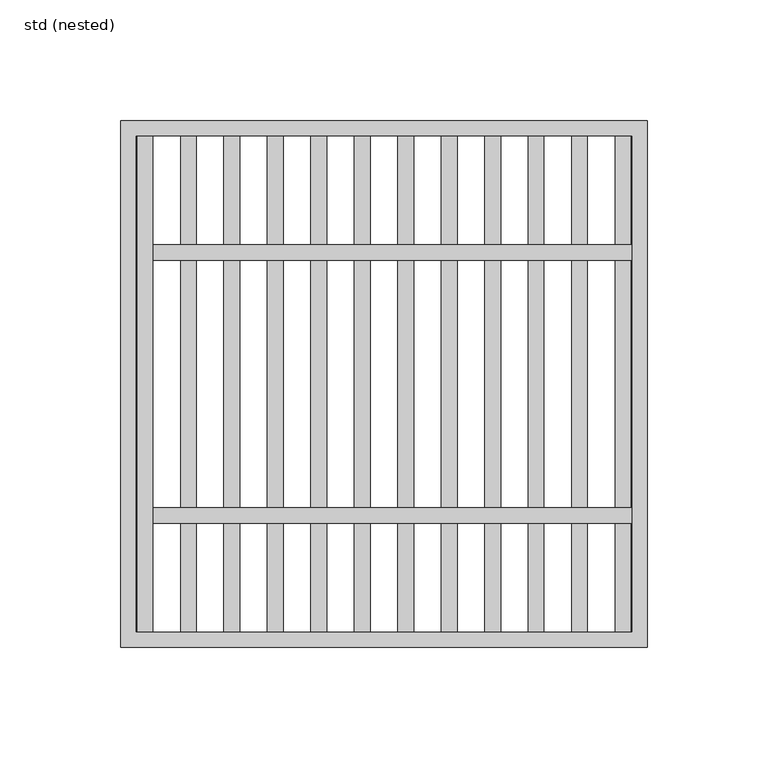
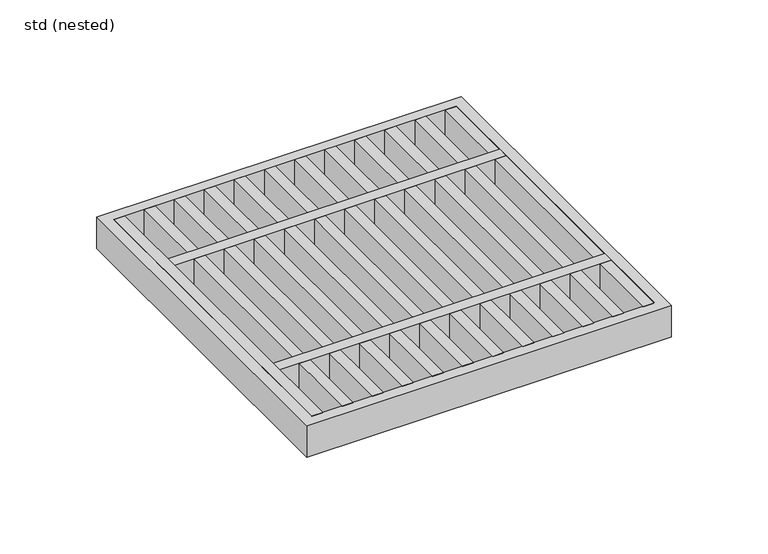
"""IFC4 building model written with IfcOpenShell, lengths in millimetres: sanitary terminal geometry, ZZZ_do not use_PF_ST_UN_square grating for hygienic gully_ACO : std (nested)."""

from ifc_helpers import new_model, si_unit, frame, origin, place, context, project, spatial, polyline, outline, extrude, source, transform, mapped, element, save


def std_nested_079e4442(model_context):
    return source(origin(), model_context, "Body", "SweptSolid", [
        extrude(outline(polyline([(-95.75, -102.5), (-102.25, -102.5), (-102.25, 102.5), (-95.75, 102.5), (-95.75, -102.5)])), frame((0.0, 0.0, -20.0), z_axis=(0.0, 0.0, 1.0), x_axis=(1.0, 0.0, 0.0)), (0.0, 0.0, 1.0), 20.0),
        extrude(outline(polyline([(-102.5, 51.25), (-102.5, 57.75), (102.5, 57.75), (102.5, 51.25), (-102.5, 51.25)])), frame((0.0, 0.0, -20.0), z_axis=(0.0, 0.0, 1.0), x_axis=(1.0, 0.0, 0.0)), (0.0, 0.0, 1.0), 20.0),
        extrude(outline(polyline([(-102.5, -57.75), (-102.5, -51.25), (102.5, -51.25), (102.5, -57.75), (-102.5, -57.75)])), frame((0.0, 0.0, -20.0), z_axis=(0.0, 0.0, 1.0), x_axis=(1.0, 0.0, 0.0)), (0.0, 0.0, 1.0), 20.0),
        extrude(outline(polyline([(102.25, -102.5), (95.75, -102.5), (95.75, 102.5), (102.25, 102.5), (102.25, -102.5)])), frame((0.0, 0.0, -20.0), z_axis=(0.0, 0.0, 1.0), x_axis=(1.0, 0.0, 0.0)), (0.0, 0.0, 1.0), 20.0),
        extrude(outline(polyline([(-77.75, -102.5), (-84.25, -102.5), (-84.25, 102.5), (-77.75, 102.5), (-77.75, -102.5)])), frame((0.0, 0.0, -20.0), z_axis=(0.0, 0.0, 1.0), x_axis=(1.0, 0.0, 0.0)), (0.0, 0.0, 1.0), 20.0),
        extrude(outline(polyline([(-59.75, -102.5), (-66.25, -102.5), (-66.25, 102.5), (-59.75, 102.5), (-59.75, -102.5)])), frame((0.0, 0.0, -20.0), z_axis=(0.0, 0.0, 1.0), x_axis=(1.0, 0.0, 0.0)), (0.0, 0.0, 1.0), 20.0),
        extrude(outline(polyline([(-41.75, -102.5), (-48.25, -102.5), (-48.25, 102.5), (-41.75, 102.5), (-41.75, -102.5)])), frame((0.0, 0.0, -20.0), z_axis=(0.0, 0.0, 1.0), x_axis=(1.0, 0.0, 0.0)), (0.0, 0.0, 1.0), 20.0),
        extrude(outline(polyline([(-23.75, -102.5), (-30.25, -102.5), (-30.25, 102.5), (-23.75, 102.5), (-23.75, -102.5)])), frame((0.0, 0.0, -20.0), z_axis=(0.0, 0.0, 1.0), x_axis=(1.0, 0.0, 0.0)), (0.0, 0.0, 1.0), 20.0),
        extrude(outline(polyline([(84.25, -102.5), (77.75, -102.5), (77.75, 102.5), (84.25, 102.5), (84.25, -102.5)])), frame((0.0, 0.0, -20.0), z_axis=(0.0, 0.0, 1.0), x_axis=(1.0, 0.0, 0.0)), (0.0, 0.0, 1.0), 20.0),
        extrude(outline(polyline([(66.25, -102.5), (59.75, -102.5), (59.75, 102.5), (66.25, 102.5), (66.25, -102.5)])), frame((0.0, 0.0, -20.0), z_axis=(0.0, 0.0, 1.0), x_axis=(1.0, 0.0, 0.0)), (0.0, 0.0, 1.0), 20.0),
        extrude(outline(polyline([(48.25, -102.5), (41.75, -102.5), (41.75, 102.5), (48.25, 102.5), (48.25, -102.5)])), frame((0.0, 0.0, -20.0), z_axis=(0.0, 0.0, 1.0), x_axis=(1.0, 0.0, 0.0)), (0.0, 0.0, 1.0), 20.0),
        extrude(outline(polyline([(30.25, -102.5), (23.75, -102.5), (23.75, 102.5), (30.25, 102.5), (30.25, -102.5)])), frame((0.0, 0.0, -20.0), z_axis=(0.0, 0.0, 1.0), x_axis=(1.0, 0.0, 0.0)), (0.0, 0.0, 1.0), 20.0),
        extrude(outline(polyline([(-5.75, -102.5), (-12.25, -102.5), (-12.25, 102.5), (-5.75, 102.5), (-5.75, -102.5)])), frame((0.0, 0.0, -20.0), z_axis=(0.0, 0.0, 1.0), x_axis=(1.0, 0.0, 0.0)), (0.0, 0.0, 1.0), 20.0),
        extrude(outline(polyline([(12.25, -102.5), (5.75, -102.5), (5.75, 102.5), (12.25, 102.5), (12.25, -102.5)])), frame((0.0, 0.0, -20.0), z_axis=(0.0, 0.0, 1.0), x_axis=(1.0, 0.0, 0.0)), (0.0, 0.0, 1.0), 20.0),
        extrude(outline(polyline([(109.0, 109.0), (109.0, -109.0), (-109.0, -109.0), (-109.0, 109.0), (109.0, 109.0)]), holes=[polyline([(102.5, 102.5), (-102.5, 102.5), (-102.5, -102.5), (102.5, -102.5), (102.5, 102.5)])]), frame((0.0, 0.0, -20.0), z_axis=(0.0, 0.0, 1.0), x_axis=(1.0, 0.0, 0.0)), (0.0, 0.0, 1.0), 20.0),
    ])


if __name__ == "__main__":
    model = new_model("IFC4")
    model_context = context("Model", 3, world=origin())
    ifc_project = project(units=[si_unit("LENGTHUNIT", "METRE", prefix="MILLI")], contexts=[model_context])
    site = spatial("IfcSite", under=ifc_project)
    building = spatial("IfcBuilding", under=site)
    placement = place(None, origin())
    std_nested_shape = std_nested_079e4442(model_context)
    element("IfcSanitaryTerminal", 1, ObjectType="ZZZ_do not use_PF_ST_UN_square grating for hygienic gully_ACO : std (nested)", at=placement, inside=building, context=model_context, shape_type="MappedRepresentation", body=[
        mapped(std_nested_shape, transform((0.0, 0.0, 0.0), x_axis=(1.0, 0.0, 0.0), y_axis=(0.0, 1.0, 0.0), z_axis=(0.0, 0.0, 1.0))),
    ])
    save(model, "model.ifc")
